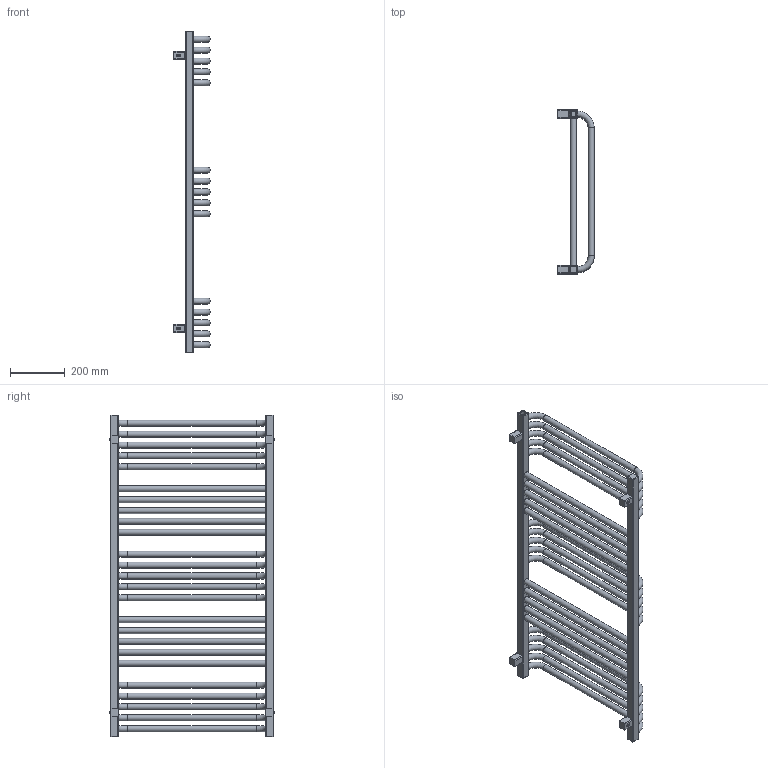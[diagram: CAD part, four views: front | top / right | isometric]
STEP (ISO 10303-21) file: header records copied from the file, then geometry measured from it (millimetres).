
FILE_DESCRIPTION((''),'2;1');
FILE_NAME('Z:\R\G\P\RGP097 - Grzejnik Poll 2012 (ALFA)\Work\Inventor\Marketing\Modele AutoCAD\PLL-1180-600 S5.stp','2012-06-29T12:45:25',('KurKa'),(''),'Autodesk Inventor 2012','Autodesk Inventor 2012','');
FILE_SCHEMA(('AUTOMOTIVE_DESIGN { 1 0 10303 214 1 1 1 1 }'));
Length unit declared in the file: millimetre
Products named in the file (3): PLL-1180-600 S5; MMT42_marketing
Assembly tree (5 placements, depth 2):
  PLL-1180-600 S5
    PLL-1180-600 S5
    MMT42_marketing  x4
Bounding box: 133 x 606 x 1180 mm (x, y, z)
Volume: 7863525.5 mm3; surface area: 1309432.6 mm2
Topology: 5 solids, 5 shells, 296 faces, 694 edges, 421 vertices
Faces by surface type: plane 115, cylinder 100, torus 38, cone 27, sphere 16
Full cylindrical faces by diameter (mm): 4.509 x4, 12 x4, 18.631 x3, 22 x25
Entity records: 4285 total; most frequent: DIRECTION 796, CARTESIAN_POINT 697, ORIENTED_EDGE 576, AXIS2_PLACEMENT_3D 343, EDGE_CURVE 288, EDGE_LOOP 284, VERTEX_POINT 204, CIRCLE 174
